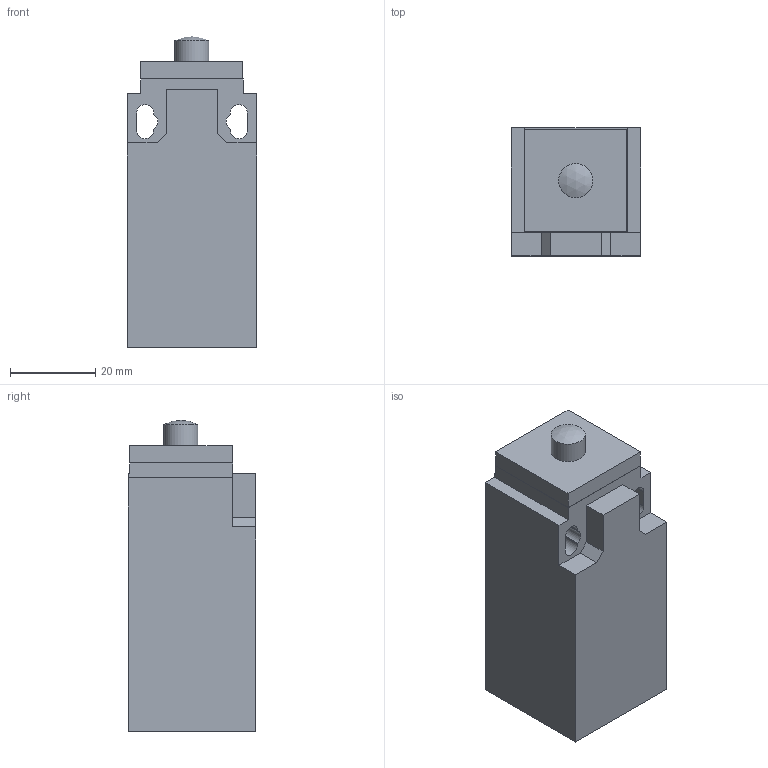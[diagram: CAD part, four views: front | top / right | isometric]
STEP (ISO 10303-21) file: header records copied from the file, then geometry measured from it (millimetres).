
FILE_DESCRIPTION((''),'2;1');
FILE_NAME('C:\Workarea\Disegni\Comepi\Catalogo\Stp\Finecorsa\AP1_T10.iam.step','2011-07-22T16:14:50',(''),(''),'Autodesk Inventor 2012','Autodesk Inventor 2012','');
FILE_SCHEMA(('AUTOMOTIVE_DESIGN { 1 0 10303 214 1 1 1 1 }'));
Length unit declared in the file: millimetre
Products named in the file (5): AP1_T10; AP1; T10; T10_1; T10_2
Assembly tree (4 placements, depth 3):
  AP1_T10
    AP1
    T10
      T10_1
      T10_2
Bounding box: 30.3 x 30 x 73 mm (x, y, z)
Volume: 51352.7 mm3; surface area: 12912.2 mm2
Topology: 3 solids, 3 shells, 44 faces, 111 edges, 74 vertices
Faces by surface type: plane 34, cylinder 9, sphere 1
Full cylindrical faces by diameter (mm): 8 x2, 20.4 x1
Entity records: 1474 total; most frequent: CARTESIAN_POINT 235, DIRECTION 232, ORIENTED_EDGE 216, EDGE_CURVE 108, VECTOR 90, LINE 90, VERTEX_POINT 74, AXIS2_PLACEMENT_3D 71
